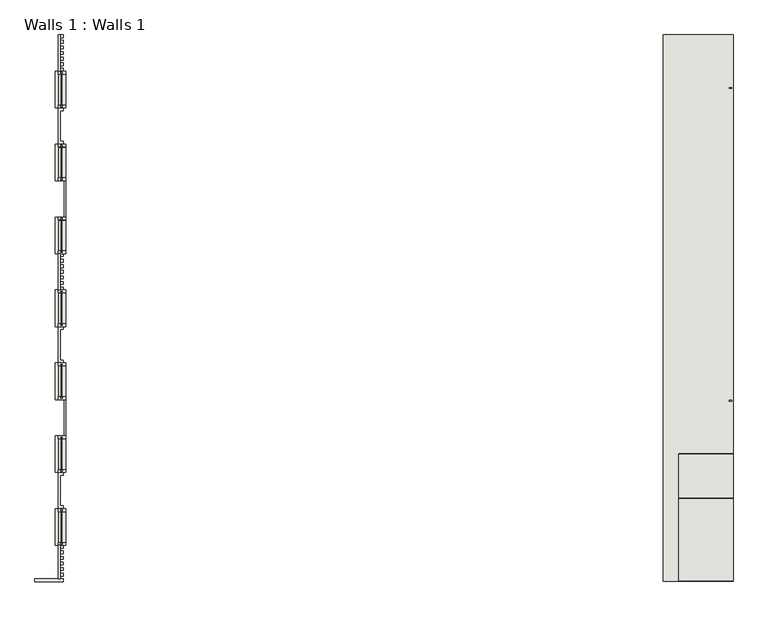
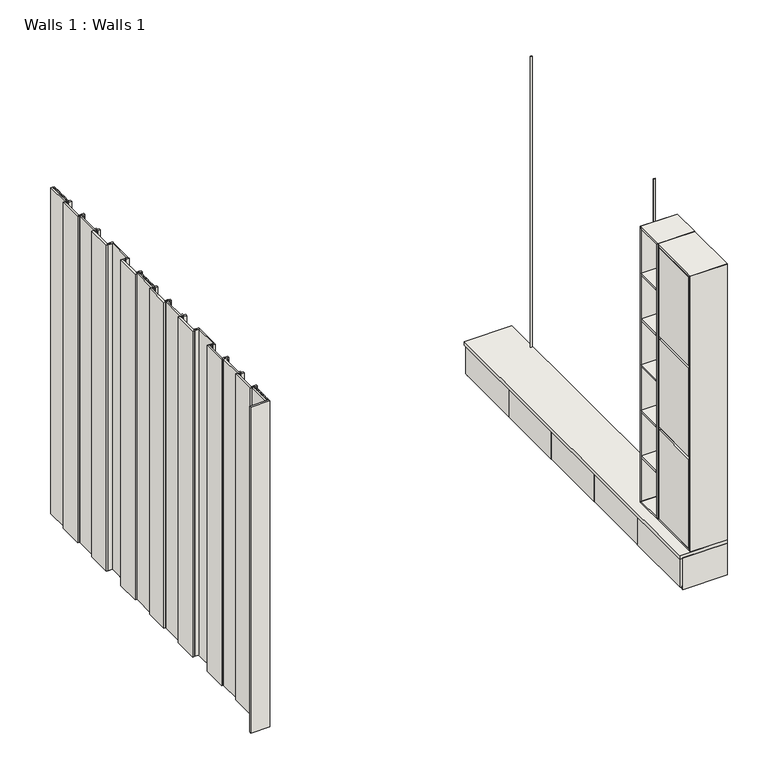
"""IFC4 building model written with IfcOpenShell, lengths in millimetres: wall geometry, Walls 1 : Walls 1."""

from ifc_helpers import new_model, si_unit, frame, origin, origin_with_axes, place, context, project, spatial, polyline, outline, extrude, faceted_brep, source, transform, mapped, element, save


def walls_1_walls_1_cd71ade8(model_context):
    return source(origin(), model_context, "Body", "SolidModel", [
        extrude(outline(polyline([(-2077.2426281, -1757.8956147), (-2077.2426281, -1507.8956147), (-2067.2426281, -1507.8956147), (-2067.2426281, -1757.8956147), (-2077.2426281, -1757.8956147)])), frame((0.0, 0.0, 368.0), z_axis=(0.0, 0.0, 1.0), x_axis=(1.0, 0.0, 0.0)), (0.0, 0.0, 1.0), 2714.0),
        extrude(outline(polyline([(-2397.2426281, -2291.8956147), (-2397.2426281, -1793.8956147), (-2387.2426281, -1793.8956147), (-2387.2426281, -2291.8956147), (-2397.2426281, -2291.8956147)])), frame((0.0, 0.0, 2157.3333333), z_axis=(0.0, 0.0, 1.0), x_axis=(1.0, 0.0, 0.0)), (0.0, 0.0, 1.0), 40.0),
        extrude(outline(polyline([(-2397.2426281, -2291.8956147), (-2397.2426281, -1793.8956147), (-2387.2426281, -1793.8956147), (-2387.2426281, -2291.8956147), (-2397.2426281, -2291.8956147)])), frame((0.0, 0.0, 1252.6666667), z_axis=(0.0, 0.0, 1.0), x_axis=(1.0, 0.0, 0.0)), (0.0, 0.0, 1.0), 40.0),
        extrude(outline(polyline([(-2417.2426281, -2286.8956147), (-2417.2426281, -1798.8956147), (-2397.2426281, -1798.8956147), (-2397.2426281, -2286.8956147), (-2417.2426281, -2286.8956147)])), frame((0.0, 0.0, 2192.3333333), z_axis=(0.0, 0.0, 1.0), x_axis=(1.0, 0.0, 0.0)), (0.0, 0.0, 1.0), 884.6666667),
        extrude(outline(polyline([(-2417.2426281, -2286.8956147), (-2417.2426281, -1798.8956147), (-2397.2426281, -1798.8956147), (-2397.2426281, -2286.8956147), (-2417.2426281, -2286.8956147)])), frame((0.0, 0.0, 1287.6666667), z_axis=(0.0, 0.0, 1.0), x_axis=(1.0, 0.0, 0.0)), (0.0, 0.0, 1.0), 874.6666667),
        extrude(outline(polyline([(-2417.2426281, -2286.8956147), (-2417.2426281, -1798.8956147), (-2397.2426281, -1798.8956147), (-2397.2426281, -2286.8956147), (-2417.2426281, -2286.8956147)])), frame((0.0, 0.0, 373.0), z_axis=(0.0, 0.0, 1.0), x_axis=(1.0, 0.0, 0.0)), (0.0, 0.0, 1.0), 884.6666667),
        extrude(outline(polyline([(-1775.8956147, 350.7071068), (-1775.8956147, 3099.2928932), (-1757.8956147, 3081.2928932), (-1757.8956147, 368.7071068), (-1775.8956147, 350.7071068)])), frame((-2417.2426281, 0.0, 0.0), z_axis=(1.0, 0.0, 0.0), x_axis=(0.0, 1.0, 0.0)), (0.0, 0.0, 1.0), 350.0),
        extrude(outline(polyline([(-1490.6027215, 350.0), (-1775.1885079, 350.0), (-1757.1885079, 368.0), (-1508.6027215, 368.0), (-1490.6027215, 350.0)])), frame((-2417.2426281, 0.0, 0.0), z_axis=(1.0, 0.0, 0.0), x_axis=(0.0, 1.0, 0.0)), (0.0, 0.0, 1.0), 350.0),
        extrude(outline(polyline([(-1489.8956147, 350.7071068), (-1507.8956147, 368.7071068), (-1507.8956147, 3081.2928932), (-1489.8956147, 3099.2928932), (-1489.8956147, 350.7071068)])), frame((-2417.2426281, 0.0, 0.0), z_axis=(1.0, 0.0, 0.0), x_axis=(0.0, 1.0, 0.0)), (0.0, 0.0, 1.0), 350.0),
        extrude(outline(polyline([(-1490.6027215, 3100.0), (-1508.6027215, 3082.0), (-1757.1885079, 3082.0), (-1775.1885079, 3100.0), (-1490.6027215, 3100.0)])), frame((-2417.2426281, 0.0, 0.0), z_axis=(1.0, 0.0, 0.0), x_axis=(0.0, 1.0, 0.0)), (0.0, 0.0, 1.0), 350.0),
        extrude(outline(polyline([(-2417.2426281, -1756.8956147), (-2417.2426281, -1508.8956147), (-2067.2426281, -1508.8956147), (-2067.2426281, -1756.8956147), (-2417.2426281, -1756.8956147)])), frame((0.0, 0.0, 2171.3333333), z_axis=(0.0, 0.0, 1.0), x_axis=(1.0, 0.0, 0.0)), (0.0, 0.0, 1.0), 18.0),
        extrude(outline(polyline([(-2417.2426281, -1756.8956147), (-2417.2426281, -1508.8956147), (-2067.2426281, -1508.8956147), (-2067.2426281, -1756.8956147), (-2417.2426281, -1756.8956147)])), frame((0.0, 0.0, 1716.0), z_axis=(0.0, 0.0, 1.0), x_axis=(1.0, 0.0, 0.0)), (0.0, 0.0, 1.0), 18.0),
        extrude(outline(polyline([(-2417.2426281, -1756.8956147), (-2417.2426281, -1508.8956147), (-2067.2426281, -1508.8956147), (-2067.2426281, -1756.8956147), (-2417.2426281, -1756.8956147)])), frame((0.0, 0.0, 1260.6666667), z_axis=(0.0, 0.0, 1.0), x_axis=(1.0, 0.0, 0.0)), (0.0, 0.0, 1.0), 18.0),
        extrude(outline(polyline([(-2417.2426281, -1756.8956147), (-2417.2426281, -1508.8956147), (-2067.2426281, -1508.8956147), (-2067.2426281, -1756.8956147), (-2417.2426281, -1756.8956147)])), frame((0.0, 0.0, 805.3333333), z_axis=(0.0, 0.0, 1.0), x_axis=(1.0, 0.0, 0.0)), (0.0, 0.0, 1.0), 18.0),
        extrude(outline(polyline([(-2417.2426281, -1756.8956147), (-2417.2426281, -1508.8956147), (-2067.2426281, -1508.8956147), (-2067.2426281, -1756.8956147), (-2417.2426281, -1756.8956147)])), frame((0.0, 0.0, 2626.6666667), z_axis=(0.0, 0.0, 1.0), x_axis=(1.0, 0.0, 0.0)), (0.0, 0.0, 1.0), 18.0),
        extrude(outline(polyline([(-2309.8956147, 350.7071068), (-2309.8956147, 3099.2928932), (-2291.8956147, 3081.2928932), (-2291.8956147, 368.7071068), (-2309.8956147, 350.7071068)])), frame((-2417.2426281, 0.0, 0.0), z_axis=(1.0, 0.0, 0.0), x_axis=(0.0, 1.0, 0.0)), (0.0, 0.0, 1.0), 350.0),
        extrude(outline(polyline([(-1776.6027215, 350.0), (-2309.1885079, 350.0), (-2291.1885079, 368.0), (-1794.6027215, 368.0), (-1776.6027215, 350.0)])), frame((-2417.2426281, 0.0, 0.0), z_axis=(1.0, 0.0, 0.0), x_axis=(0.0, 1.0, 0.0)), (0.0, 0.0, 1.0), 350.0),
        extrude(outline(polyline([(-1775.8956147, 350.7071068), (-1793.8956147, 368.7071068), (-1793.8956147, 3081.2928932), (-1775.8956147, 3099.2928932), (-1775.8956147, 350.7071068)])), frame((-2417.2426281, 0.0, 0.0), z_axis=(1.0, 0.0, 0.0), x_axis=(0.0, 1.0, 0.0)), (0.0, 0.0, 1.0), 350.0),
        extrude(outline(polyline([(-1776.6027215, 3100.0), (-1794.6027215, 3082.0), (-2291.1885079, 3082.0), (-2309.1885079, 3100.0), (-1776.6027215, 3100.0)])), frame((-2417.2426281, 0.0, 0.0), z_axis=(1.0, 0.0, 0.0), x_axis=(0.0, 1.0, 0.0)), (0.0, 0.0, 1.0), 350.0),
        extrude(outline(polyline([(50.2042449, -2487.2426281), (310.0, -2487.2426281), (310.0, -2507.2426281), (27.4097805, -2507.2426281), (27.4097805, -2500.4030183), (50.2042449, -2487.2426281)])), frame((0.0, 502.6043853, 0.0), z_axis=(0.0, 1.0, 0.0), x_axis=(0.0, 0.0, 1.0)), (0.0, 0.0, 1.0), 702.5),
        extrude(outline(polyline([(50.2042449, -2487.2426281), (310.0, -2487.2426281), (310.0, -2507.2426281), (27.4097805, -2507.2426281), (27.4097805, -2500.4030183), (50.2042449, -2487.2426281)])), frame((0.0, -197.3956147, 0.0), z_axis=(0.0, 1.0, 0.0), x_axis=(0.0, 0.0, 1.0)), (0.0, 0.0, 1.0), 695.0),
        extrude(outline(polyline([(50.2042449, -2487.2426281), (310.0, -2487.2426281), (310.0, -2507.2426281), (27.4097805, -2507.2426281), (27.4097805, -2500.4030183), (50.2042449, -2487.2426281)])), frame((0.0, -897.3956147, 0.0), z_axis=(0.0, 1.0, 0.0), x_axis=(0.0, 0.0, 1.0)), (0.0, 0.0, 1.0), 695.0),
        extrude(outline(polyline([(50.2042449, -2487.2426281), (310.0, -2487.2426281), (310.0, -2507.2426281), (27.4097805, -2507.2426281), (27.4097805, -2500.4030183), (50.2042449, -2487.2426281)])), frame((0.0, -1597.3956147, 0.0), z_axis=(0.0, 1.0, 0.0), x_axis=(0.0, 0.0, 1.0)), (0.0, 0.0, 1.0), 695.0),
        extrude(outline(polyline([(50.2042449, -2487.2426281), (310.0, -2487.2426281), (310.0, -2507.2426281), (27.4097805, -2507.2426281), (27.4097805, -2500.4030183), (50.2042449, -2487.2426281)])), frame((0.0, -2304.8956147, 0.0), z_axis=(0.0, 1.0, 0.0), x_axis=(0.0, 0.0, 1.0)), (0.0, 0.0, 1.0), 702.5),
        extrude(outline(polyline([(-2487.2426281, -2288.8956147), (-2487.2426281, 1189.1043853), (-2467.2426281, 1189.1043853), (-2467.2426281, -2288.8956147), (-2487.2426281, -2288.8956147)])), origin_with_axes(), (0.0, 0.0, 1.0), 30.0),
        extrude(outline(polyline([(1210.1043853, 314.2928932), (1210.1043853, 0.0), (1190.1043853, 0.0), (1190.1043853, 294.2928932), (1210.1043853, 314.2928932)])), frame((-2487.2426281, 0.0, 0.0), z_axis=(1.0, 0.0, 0.0), x_axis=(0.0, 1.0, 0.0)), (0.0, 0.0, 1.0), 420.0),
        extrude(outline(polyline([(-2309.1885079, 315.0), (1209.3972785, 315.0), (1189.3972785, 295.0), (-2289.1885079, 295.0), (-2309.1885079, 315.0)])), frame((-2487.2426281, 0.0, 0.0), z_axis=(1.0, 0.0, 0.0), x_axis=(0.0, 1.0, 0.0)), (0.0, 0.0, 1.0), 420.0),
        extrude(outline(polyline([(-2309.8956147, 314.2928932), (-2289.8956147, 294.2928932), (-2289.8956147, 0.0), (-2309.8956147, 0.0), (-2309.8956147, 314.2928932)])), frame((-2487.2426281, 0.0, 0.0), z_axis=(1.0, 0.0, 0.0), x_axis=(0.0, 1.0, 0.0)), (0.0, 0.0, 1.0), 420.0),
        extrude(outline(polyline([(-2487.2426281, 490.1043853), (-2487.2426281, 510.1043853), (-2067.2426281, 510.1043853), (-2067.2426281, 490.1043853), (-2487.2426281, 490.1043853)])), frame((0.0, 0.0, 51.0), z_axis=(0.0, 0.0, 1.0), x_axis=(1.0, 0.0, 0.0)), (0.0, 0.0, 1.0), 243.0),
        extrude(outline(polyline([(-2487.2426281, -209.8956147), (-2487.2426281, -189.8956147), (-2067.2426281, -189.8956147), (-2067.2426281, -209.8956147), (-2487.2426281, -209.8956147)])), frame((0.0, 0.0, 51.0), z_axis=(0.0, 0.0, 1.0), x_axis=(1.0, 0.0, 0.0)), (0.0, 0.0, 1.0), 243.0),
        extrude(outline(polyline([(-2487.2426281, -909.8956147), (-2487.2426281, -889.8956147), (-2067.2426281, -889.8956147), (-2067.2426281, -909.8956147), (-2487.2426281, -909.8956147)])), frame((0.0, 0.0, 51.0), z_axis=(0.0, 0.0, 1.0), x_axis=(1.0, 0.0, 0.0)), (0.0, 0.0, 1.0), 243.0),
        extrude(outline(polyline([(-2487.2426281, -1609.8956147), (-2487.2426281, -1589.8956147), (-2067.2426281, -1589.8956147), (-2067.2426281, -1609.8956147), (-2487.2426281, -1609.8956147)])), frame((0.0, 0.0, 51.0), z_axis=(0.0, 0.0, 1.0), x_axis=(1.0, 0.0, 0.0)), (0.0, 0.0, 1.0), 243.0),
        extrude(outline(polyline([(-2487.2426281, -2288.8956147), (-2487.2426281, 1189.1043853), (-2067.2426281, 1189.1043853), (-2067.2426281, -2288.8956147), (-2487.2426281, -2288.8956147)])), frame((0.0, 0.0, 30.0), z_axis=(0.0, 0.0, 1.0), x_axis=(1.0, 0.0, 0.0)), (0.0, 0.0, 1.0), 20.0),
        extrude(outline(polyline([(-2517.2426281, -2309.8956147), (-2517.2426281, 1210.1043853), (-2067.2426281, 1210.1043853), (-2067.2426281, -2309.8956147), (-2517.2426281, -2309.8956147)])), frame((0.0, 0.0, 315.0), z_axis=(0.0, 0.0, 1.0), x_axis=(1.0, 0.0, 0.0)), (0.0, 0.0, 1.0), 35.0),
        extrude(outline(polyline([(-2077.2426281, 870.1043853), (-2077.2426281, 865.1043853), (-2092.2426281, 865.1043853), (-2092.2426281, 870.1043853), (-2077.2426281, 870.1043853)])), frame((0.0, 0.0, 350.0), z_axis=(0.0, 0.0, 1.0), x_axis=(1.0, 0.0, 0.0)), (0.0, 0.0, 1.0), 2900.0),
        extrude(outline(polyline([(-2092.2426281, -1149.8956147), (-2092.2426281, -1144.8956147), (-2077.2426281, -1144.8956147), (-2077.2426281, -1149.8956147), (-2092.2426281, -1149.8956147)])), frame((0.0, 0.0, 350.0), z_axis=(0.0, 0.0, 1.0), x_axis=(1.0, 0.0, 0.0)), (0.0, 0.0, 1.0), 2900.0),
        extrude(outline(polyline([(-6417.2426281, 1210.1043853), (-6403.2426281, 1210.1043853), (-6403.2426281, 976.1043853), (-6417.2426281, 976.1043853), (-6417.2426281, 1210.1043853)])), origin_with_axes(), (0.0, 0.0, 1.0), 3250.0),
        extrude(outline(polyline([(-6417.2426281, -199.8956147), (-6403.2426281, -199.8956147), (-6403.2426281, -433.8956147), (-6417.2426281, -433.8956147), (-6417.2426281, -199.8956147)])), origin_with_axes(), (0.0, 0.0, 1.0), 3250.0),
        extrude(outline(polyline([(-6417.2426281, -2079.8956147), (-6403.2426281, -2079.8956147), (-6403.2426281, -2295.8956147), (-6417.2426281, -2295.8956147), (-6417.2426281, -2079.8956147)])), origin_with_axes(), (0.0, 0.0, 1.0), 3250.0),
        extrude(outline(polyline([(-6392.2426281, 968.1043853), (-6392.2426281, 963.1043853), (-6402.2426281, 963.1043853), (-6402.2426281, 968.1043853), (-6392.2426281, 968.1043853)])), origin_with_axes(), (0.0, 0.0, 1.0), 3250.0),
        extrude(outline(polyline([(-6392.2426281, 753.1043853), (-6392.2426281, 748.1043853), (-6402.2426281, 748.1043853), (-6402.2426281, 753.1043853), (-6392.2426281, 753.1043853)])), origin_with_axes(), (0.0, 0.0, 1.0), 3250.0),
        extrude(outline(polyline([(-6392.2426281, 498.1043853), (-6392.2426281, 493.1043853), (-6402.2426281, 493.1043853), (-6402.2426281, 498.1043853), (-6392.2426281, 498.1043853)])), origin_with_axes(), (0.0, 0.0, 1.0), 3250.0),
        extrude(outline(polyline([(-6392.2426281, 283.1043853), (-6392.2426281, 278.1043853), (-6402.2426281, 278.1043853), (-6402.2426281, 283.1043853), (-6392.2426281, 283.1043853)])), origin_with_axes(), (0.0, 0.0, 1.0), 3250.0),
        extrude(outline(polyline([(-6392.2426281, 28.1043853), (-6392.2426281, 23.1043853), (-6402.2426281, 23.1043853), (-6402.2426281, 28.1043853), (-6392.2426281, 28.1043853)])), origin_with_axes(), (0.0, 0.0, 1.0), 3250.0),
        extrude(outline(polyline([(-6392.2426281, -186.8956147), (-6392.2426281, -191.8956147), (-6402.2426281, -191.8956147), (-6402.2426281, -186.8956147), (-6392.2426281, -186.8956147)])), origin_with_axes(), (0.0, 0.0, 1.0), 3250.0),
        extrude(outline(polyline([(-6392.2426281, -441.8956147), (-6392.2426281, -446.8956147), (-6402.2426281, -446.8956147), (-6402.2426281, -441.8956147), (-6392.2426281, -441.8956147)])), origin_with_axes(), (0.0, 0.0, 1.0), 3250.0),
        extrude(outline(polyline([(-6392.2426281, -656.8956147), (-6392.2426281, -661.8956147), (-6402.2426281, -661.8956147), (-6402.2426281, -656.8956147), (-6392.2426281, -656.8956147)])), origin_with_axes(), (0.0, 0.0, 1.0), 3250.0),
        extrude(outline(polyline([(-6392.2426281, -911.8956147), (-6392.2426281, -916.8956147), (-6402.2426281, -916.8956147), (-6402.2426281, -911.8956147), (-6392.2426281, -911.8956147)])), origin_with_axes(), (0.0, 0.0, 1.0), 3250.0),
        extrude(outline(polyline([(-6392.2426281, -1126.8956147), (-6392.2426281, -1131.8956147), (-6402.2426281, -1131.8956147), (-6402.2426281, -1126.8956147), (-6392.2426281, -1126.8956147)])), origin_with_axes(), (0.0, 0.0, 1.0), 3250.0),
        extrude(outline(polyline([(-6392.2426281, -1381.8956147), (-6392.2426281, -1386.8956147), (-6402.2426281, -1386.8956147), (-6402.2426281, -1381.8956147), (-6392.2426281, -1381.8956147)])), origin_with_axes(), (0.0, 0.0, 1.0), 3250.0),
        extrude(outline(polyline([(-6392.2426281, -1596.8956147), (-6392.2426281, -1601.8956147), (-6402.2426281, -1601.8956147), (-6402.2426281, -1596.8956147), (-6392.2426281, -1596.8956147)])), origin_with_axes(), (0.0, 0.0, 1.0), 3250.0),
        extrude(outline(polyline([(-6392.2426281, -1851.8956147), (-6392.2426281, -1856.8956147), (-6402.2426281, -1856.8956147), (-6402.2426281, -1851.8956147), (-6392.2426281, -1851.8956147)])), origin_with_axes(), (0.0, 0.0, 1.0), 3250.0),
        extrude(outline(polyline([(-6392.2426281, -2066.8956147), (-6392.2426281, -2071.8956147), (-6402.2426281, -2071.8956147), (-6402.2426281, -2066.8956147), (-6392.2426281, -2066.8956147)])), origin_with_axes(), (0.0, 0.0, 1.0), 3250.0),
        faceted_brep([(-6367.2426281, 958.1043853, 3250.0), (-6367.2426281, 958.1043853, 18.7071068), (-6367.2426281, 976.1043853, 0.7071068), (-6367.2426281, 976.1043853, 3250.0), (-6417.2426281, 958.1043853, 3250.0), (-6417.2426281, 976.1043853, 3250.0), (-6417.2426281, 976.1043853, 0.7071068), (-6417.2426281, 958.1043853, 18.7071068), (-6392.2426281, 958.1043853, 3250.0), (-6392.2426281, 958.1043853, 18.7071068), (-6402.2426281, 958.1043853, 18.7071068), (-6402.2426281, 958.1043853, 3250.0), (-6392.2426281, 968.1043853, 8.7071068), (-6402.2426281, 968.1043853, 8.7071068), (-6402.2426281, 968.1043853, 3250.0), (-6392.2426281, 968.1043853, 3250.0)], [[[0, 1, 2, 3]], [[4, 5, 6, 7]], [[1, 0, 8, 9]], [[4, 7, 10, 11]], [[2, 1, 9, 12, 13, 10, 7, 6]], [[3, 2, 6, 5]], [[0, 3, 5, 4, 11, 14, 15, 8]], [[13, 14, 11, 10]], [[15, 12, 9, 8]], [[14, 13, 12, 15]]]),
        faceted_brep([(-6367.2426281, 740.8114921, 0.0), (-6367.2426281, 975.3972785, 0.0), (-6367.2426281, 957.3972785, 18.0), (-6367.2426281, 758.8114921, 18.0), (-6417.2426281, 740.8114921, 0.0), (-6417.2426281, 758.8114921, 18.0), (-6417.2426281, 957.3972785, 18.0), (-6417.2426281, 975.3972785, 0.0), (-6402.2426281, 968.1043853, 0.0), (-6402.2426281, 748.1043853, 0.0), (-6392.2426281, 748.1043853, 0.0), (-6392.2426281, 968.1043853, 0.0), (-6402.2426281, 957.3972785, 18.0), (-6402.2426281, 968.1043853, 7.2928932), (-6392.2426281, 968.1043853, 7.2928932), (-6392.2426281, 957.3972785, 18.0), (-6392.2426281, 758.8114921, 18.0), (-6402.2426281, 758.8114921, 18.0), (-6392.2426281, 748.1043853, 7.2928932), (-6402.2426281, 748.1043853, 7.2928932)], [[[0, 1, 2, 3]], [[4, 5, 6, 7]], [[1, 0, 4, 7], [8, 9, 10, 11]], [[2, 1, 7, 6, 12, 13, 14, 15]], [[3, 2, 15, 16]], [[6, 5, 17, 12]], [[0, 3, 16, 18, 19, 17, 5, 4]], [[8, 13, 12, 17, 19, 9]], [[9, 19, 18, 10]], [[10, 18, 16, 15, 14, 11]], [[13, 8, 11, 14]]]),
        faceted_brep([(-6367.2426281, 758.1043853, 3250.0), (-6367.2426281, 740.1043853, 3250.0), (-6367.2426281, 740.1043853, 0.7071068), (-6367.2426281, 758.1043853, 18.7071068), (-6417.2426281, 758.1043853, 3250.0), (-6417.2426281, 758.1043853, 18.7071068), (-6417.2426281, 740.1043853, 0.7071068), (-6417.2426281, 740.1043853, 3250.0), (-6392.2426281, 758.1043853, 3250.0), (-6392.2426281, 748.1043853, 3250.0), (-6402.2426281, 748.1043853, 3250.0), (-6402.2426281, 758.1043853, 3250.0), (-6402.2426281, 758.1043853, 18.7071068), (-6402.2426281, 748.1043853, 8.7071068), (-6392.2426281, 748.1043853, 8.7071068), (-6392.2426281, 758.1043853, 18.7071068)], [[[0, 1, 2, 3]], [[4, 5, 6, 7]], [[1, 0, 8, 9, 10, 11, 4, 7]], [[2, 1, 7, 6]], [[3, 2, 6, 5, 12, 13, 14, 15]], [[0, 3, 15, 8]], [[5, 4, 11, 12]], [[10, 13, 12, 11]], [[13, 10, 9, 14]], [[14, 9, 8, 15]]]),
        faceted_brep([(-6367.2426281, 488.1043853, 3250.0), (-6367.2426281, 488.1043853, 18.7071068), (-6367.2426281, 506.1043853, 0.7071068), (-6367.2426281, 506.1043853, 3250.0), (-6417.2426281, 488.1043853, 3250.0), (-6417.2426281, 506.1043853, 3250.0), (-6417.2426281, 506.1043853, 0.7071068), (-6417.2426281, 488.1043853, 18.7071068), (-6392.2426281, 488.1043853, 3250.0), (-6392.2426281, 488.1043853, 18.7071068), (-6402.2426281, 488.1043853, 18.7071068), (-6402.2426281, 488.1043853, 3250.0), (-6392.2426281, 498.1043853, 8.7071068), (-6402.2426281, 498.1043853, 8.7071068), (-6402.2426281, 498.1043853, 3250.0), (-6392.2426281, 498.1043853, 3250.0)], [[[0, 1, 2, 3]], [[4, 5, 6, 7]], [[1, 0, 8, 9]], [[4, 7, 10, 11]], [[2, 1, 9, 12, 13, 10, 7, 6]], [[3, 2, 6, 5]], [[0, 3, 5, 4, 11, 14, 15, 8]], [[13, 14, 11, 10]], [[15, 12, 9, 8]], [[14, 13, 12, 15]]]),
        faceted_brep([(-6367.2426281, 270.8114921, 0.0), (-6367.2426281, 505.3972785, 0.0), (-6367.2426281, 487.3972785, 18.0), (-6367.2426281, 288.8114921, 18.0), (-6417.2426281, 270.8114921, 0.0), (-6417.2426281, 288.8114921, 18.0), (-6417.2426281, 487.3972785, 18.0), (-6417.2426281, 505.3972785, 0.0), (-6402.2426281, 498.1043853, 0.0), (-6402.2426281, 278.1043853, 0.0), (-6392.2426281, 278.1043853, 0.0), (-6392.2426281, 498.1043853, 0.0), (-6402.2426281, 487.3972785, 18.0), (-6402.2426281, 498.1043853, 7.2928932), (-6392.2426281, 498.1043853, 7.2928932), (-6392.2426281, 487.3972785, 18.0), (-6392.2426281, 288.8114921, 18.0), (-6402.2426281, 288.8114921, 18.0), (-6392.2426281, 278.1043853, 7.2928932), (-6402.2426281, 278.1043853, 7.2928932)], [[[0, 1, 2, 3]], [[4, 5, 6, 7]], [[1, 0, 4, 7], [8, 9, 10, 11]], [[2, 1, 7, 6, 12, 13, 14, 15]], [[3, 2, 15, 16]], [[6, 5, 17, 12]], [[0, 3, 16, 18, 19, 17, 5, 4]], [[8, 13, 12, 17, 19, 9]], [[9, 19, 18, 10]], [[10, 18, 16, 15, 14, 11]], [[13, 8, 11, 14]]]),
        faceted_brep([(-6367.2426281, 288.1043853, 3250.0), (-6367.2426281, 270.1043853, 3250.0), (-6367.2426281, 270.1043853, 0.7071068), (-6367.2426281, 288.1043853, 18.7071068), (-6417.2426281, 288.1043853, 3250.0), (-6417.2426281, 288.1043853, 18.7071068), (-6417.2426281, 270.1043853, 0.7071068), (-6417.2426281, 270.1043853, 3250.0), (-6392.2426281, 288.1043853, 3250.0), (-6392.2426281, 278.1043853, 3250.0), (-6402.2426281, 278.1043853, 3250.0), (-6402.2426281, 288.1043853, 3250.0), (-6402.2426281, 288.1043853, 18.7071068), (-6402.2426281, 278.1043853, 8.7071068), (-6392.2426281, 278.1043853, 8.7071068), (-6392.2426281, 288.1043853, 18.7071068)], [[[0, 1, 2, 3]], [[4, 5, 6, 7]], [[1, 0, 8, 9, 10, 11, 4, 7]], [[2, 1, 7, 6]], [[3, 2, 6, 5, 12, 13, 14, 15]], [[0, 3, 15, 8]], [[5, 4, 11, 12]], [[10, 13, 12, 11]], [[13, 10, 9, 14]], [[14, 9, 8, 15]]]),
        faceted_brep([(-6367.2426281, 18.1043853, 3250.0), (-6367.2426281, 18.1043853, 18.7071068), (-6367.2426281, 36.1043853, 0.7071068), (-6367.2426281, 36.1043853, 3250.0), (-6417.2426281, 18.1043853, 3250.0), (-6417.2426281, 36.1043853, 3250.0), (-6417.2426281, 36.1043853, 0.7071068), (-6417.2426281, 18.1043853, 18.7071068), (-6392.2426281, 18.1043853, 3250.0), (-6392.2426281, 18.1043853, 18.7071068), (-6402.2426281, 18.1043853, 18.7071068), (-6402.2426281, 18.1043853, 3250.0), (-6392.2426281, 28.1043853, 8.7071068), (-6402.2426281, 28.1043853, 8.7071068), (-6402.2426281, 28.1043853, 3250.0), (-6392.2426281, 28.1043853, 3250.0)], [[[0, 1, 2, 3]], [[4, 5, 6, 7]], [[1, 0, 8, 9]], [[4, 7, 10, 11]], [[2, 1, 9, 12, 13, 10, 7, 6]], [[3, 2, 6, 5]], [[0, 3, 5, 4, 11, 14, 15, 8]], [[13, 14, 11, 10]], [[15, 12, 9, 8]], [[14, 13, 12, 15]]]),
        faceted_brep([(-6367.2426281, -199.1885079, 0.0), (-6367.2426281, 35.3972785, 0.0), (-6367.2426281, 17.3972785, 18.0), (-6367.2426281, -181.1885079, 18.0), (-6417.2426281, -199.1885079, 0.0), (-6417.2426281, -181.1885079, 18.0), (-6417.2426281, 17.3972785, 18.0), (-6417.2426281, 35.3972785, 0.0), (-6402.2426281, 28.1043853, 0.0), (-6402.2426281, -191.8956147, 0.0), (-6392.2426281, -191.8956147, 0.0), (-6392.2426281, 28.1043853, 0.0), (-6402.2426281, 17.3972785, 18.0), (-6402.2426281, 28.1043853, 7.2928932), (-6392.2426281, 28.1043853, 7.2928932), (-6392.2426281, 17.3972785, 18.0), (-6392.2426281, -181.1885079, 18.0), (-6402.2426281, -181.1885079, 18.0), (-6392.2426281, -191.8956147, 7.2928932), (-6402.2426281, -191.8956147, 7.2928932)], [[[0, 1, 2, 3]], [[4, 5, 6, 7]], [[1, 0, 4, 7], [8, 9, 10, 11]], [[2, 1, 7, 6, 12, 13, 14, 15]], [[3, 2, 15, 16]], [[6, 5, 17, 12]], [[0, 3, 16, 18, 19, 17, 5, 4]], [[8, 13, 12, 17, 19, 9]], [[9, 19, 18, 10]], [[10, 18, 16, 15, 14, 11]], [[13, 8, 11, 14]]]),
        faceted_brep([(-6367.2426281, -181.8956147, 3250.0), (-6367.2426281, -199.8956147, 3250.0), (-6367.2426281, -199.8956147, 0.7071068), (-6367.2426281, -181.8956147, 18.7071068), (-6417.2426281, -181.8956147, 3250.0), (-6417.2426281, -181.8956147, 18.7071068), (-6417.2426281, -199.8956147, 0.7071068), (-6417.2426281, -199.8956147, 3250.0), (-6392.2426281, -181.8956147, 3250.0), (-6392.2426281, -191.8956147, 3250.0), (-6402.2426281, -191.8956147, 3250.0), (-6402.2426281, -181.8956147, 3250.0), (-6402.2426281, -181.8956147, 18.7071068), (-6402.2426281, -191.8956147, 8.7071068), (-6392.2426281, -191.8956147, 8.7071068), (-6392.2426281, -181.8956147, 18.7071068)], [[[0, 1, 2, 3]], [[4, 5, 6, 7]], [[1, 0, 8, 9, 10, 11, 4, 7]], [[2, 1, 7, 6]], [[3, 2, 6, 5, 12, 13, 14, 15]], [[0, 3, 15, 8]], [[5, 4, 11, 12]], [[10, 13, 12, 11]], [[13, 10, 9, 14]], [[14, 9, 8, 15]]]),
        faceted_brep([(-6367.2426281, -451.8956147, 3250.0), (-6367.2426281, -451.8956147, 18.7071068), (-6367.2426281, -433.8956147, 0.7071068), (-6367.2426281, -433.8956147, 3250.0), (-6417.2426281, -451.8956147, 3250.0), (-6417.2426281, -433.8956147, 3250.0), (-6417.2426281, -433.8956147, 0.7071068), (-6417.2426281, -451.8956147, 18.7071068), (-6392.2426281, -451.8956147, 3250.0), (-6392.2426281, -451.8956147, 18.7071068), (-6402.2426281, -451.8956147, 18.7071068), (-6402.2426281, -451.8956147, 3250.0), (-6392.2426281, -441.8956147, 8.7071068), (-6402.2426281, -441.8956147, 8.7071068), (-6402.2426281, -441.8956147, 3250.0), (-6392.2426281, -441.8956147, 3250.0)], [[[0, 1, 2, 3]], [[4, 5, 6, 7]], [[1, 0, 8, 9]], [[4, 7, 10, 11]], [[2, 1, 9, 12, 13, 10, 7, 6]], [[3, 2, 6, 5]], [[0, 3, 5, 4, 11, 14, 15, 8]], [[13, 14, 11, 10]], [[15, 12, 9, 8]], [[14, 13, 12, 15]]]),
        faceted_brep([(-6367.2426281, -669.1885079, 0.0), (-6367.2426281, -434.6027215, 0.0), (-6367.2426281, -452.6027215, 18.0), (-6367.2426281, -651.1885079, 18.0), (-6417.2426281, -669.1885079, 0.0), (-6417.2426281, -651.1885079, 18.0), (-6417.2426281, -452.6027215, 18.0), (-6417.2426281, -434.6027215, 0.0), (-6402.2426281, -441.8956147, 0.0), (-6402.2426281, -661.8956147, 0.0), (-6392.2426281, -661.8956147, 0.0), (-6392.2426281, -441.8956147, 0.0), (-6402.2426281, -452.6027215, 18.0), (-6402.2426281, -441.8956147, 7.2928932), (-6392.2426281, -441.8956147, 7.2928932), (-6392.2426281, -452.6027215, 18.0), (-6392.2426281, -651.1885079, 18.0), (-6402.2426281, -651.1885079, 18.0), (-6392.2426281, -661.8956147, 7.2928932), (-6402.2426281, -661.8956147, 7.2928932)], [[[0, 1, 2, 3]], [[4, 5, 6, 7]], [[1, 0, 4, 7], [8, 9, 10, 11]], [[2, 1, 7, 6, 12, 13, 14, 15]], [[3, 2, 15, 16]], [[6, 5, 17, 12]], [[0, 3, 16, 18, 19, 17, 5, 4]], [[8, 13, 12, 17, 19, 9]], [[9, 19, 18, 10]], [[10, 18, 16, 15, 14, 11]], [[13, 8, 11, 14]]]),
        faceted_brep([(-6367.2426281, -651.8956147, 3250.0), (-6367.2426281, -669.8956147, 3250.0), (-6367.2426281, -669.8956147, 0.7071068), (-6367.2426281, -651.8956147, 18.7071068), (-6417.2426281, -651.8956147, 3250.0), (-6417.2426281, -651.8956147, 18.7071068), (-6417.2426281, -669.8956147, 0.7071068), (-6417.2426281, -669.8956147, 3250.0), (-6392.2426281, -651.8956147, 3250.0), (-6392.2426281, -661.8956147, 3250.0), (-6402.2426281, -661.8956147, 3250.0), (-6402.2426281, -651.8956147, 3250.0), (-6402.2426281, -651.8956147, 18.7071068), (-6402.2426281, -661.8956147, 8.7071068), (-6392.2426281, -661.8956147, 8.7071068), (-6392.2426281, -651.8956147, 18.7071068)], [[[0, 1, 2, 3]], [[4, 5, 6, 7]], [[1, 0, 8, 9, 10, 11, 4, 7]], [[2, 1, 7, 6]], [[3, 2, 6, 5, 12, 13, 14, 15]], [[0, 3, 15, 8]], [[5, 4, 11, 12]], [[10, 13, 12, 11]], [[13, 10, 9, 14]], [[14, 9, 8, 15]]]),
        faceted_brep([(-6367.2426281, -921.8956147, 3250.0), (-6367.2426281, -921.8956147, 18.7071068), (-6367.2426281, -903.8956147, 0.7071068), (-6367.2426281, -903.8956147, 3250.0), (-6417.2426281, -921.8956147, 3250.0), (-6417.2426281, -903.8956147, 3250.0), (-6417.2426281, -903.8956147, 0.7071068), (-6417.2426281, -921.8956147, 18.7071068), (-6392.2426281, -921.8956147, 3250.0), (-6392.2426281, -921.8956147, 18.7071068), (-6402.2426281, -921.8956147, 18.7071068), (-6402.2426281, -921.8956147, 3250.0), (-6392.2426281, -911.8956147, 8.7071068), (-6402.2426281, -911.8956147, 8.7071068), (-6402.2426281, -911.8956147, 3250.0), (-6392.2426281, -911.8956147, 3250.0)], [[[0, 1, 2, 3]], [[4, 5, 6, 7]], [[1, 0, 8, 9]], [[4, 7, 10, 11]], [[2, 1, 9, 12, 13, 10, 7, 6]], [[3, 2, 6, 5]], [[0, 3, 5, 4, 11, 14, 15, 8]], [[13, 14, 11, 10]], [[15, 12, 9, 8]], [[14, 13, 12, 15]]]),
        faceted_brep([(-6367.2426281, -1139.1885079, 0.0), (-6367.2426281, -904.6027215, 0.0), (-6367.2426281, -922.6027215, 18.0), (-6367.2426281, -1121.1885079, 18.0), (-6417.2426281, -1139.1885079, 0.0), (-6417.2426281, -1121.1885079, 18.0), (-6417.2426281, -922.6027215, 18.0), (-6417.2426281, -904.6027215, 0.0), (-6402.2426281, -911.8956147, 0.0), (-6402.2426281, -1131.8956147, 0.0), (-6392.2426281, -1131.8956147, 0.0), (-6392.2426281, -911.8956147, 0.0), (-6402.2426281, -922.6027215, 18.0), (-6402.2426281, -911.8956147, 7.2928932), (-6392.2426281, -911.8956147, 7.2928932), (-6392.2426281, -922.6027215, 18.0), (-6392.2426281, -1121.1885079, 18.0), (-6402.2426281, -1121.1885079, 18.0), (-6392.2426281, -1131.8956147, 7.2928932), (-6402.2426281, -1131.8956147, 7.2928932)], [[[0, 1, 2, 3]], [[4, 5, 6, 7]], [[1, 0, 4, 7], [8, 9, 10, 11]], [[2, 1, 7, 6, 12, 13, 14, 15]], [[3, 2, 15, 16]], [[6, 5, 17, 12]], [[0, 3, 16, 18, 19, 17, 5, 4]], [[8, 13, 12, 17, 19, 9]], [[9, 19, 18, 10]], [[10, 18, 16, 15, 14, 11]], [[13, 8, 11, 14]]]),
        faceted_brep([(-6367.2426281, -1121.8956147, 3250.0), (-6367.2426281, -1139.8956147, 3250.0), (-6367.2426281, -1139.8956147, 0.7071068), (-6367.2426281, -1121.8956147, 18.7071068), (-6417.2426281, -1121.8956147, 3250.0), (-6417.2426281, -1121.8956147, 18.7071068), (-6417.2426281, -1139.8956147, 0.7071068), (-6417.2426281, -1139.8956147, 3250.0), (-6392.2426281, -1121.8956147, 3250.0), (-6392.2426281, -1131.8956147, 3250.0), (-6402.2426281, -1131.8956147, 3250.0), (-6402.2426281, -1121.8956147, 3250.0), (-6402.2426281, -1121.8956147, 18.7071068), (-6402.2426281, -1131.8956147, 8.7071068), (-6392.2426281, -1131.8956147, 8.7071068), (-6392.2426281, -1121.8956147, 18.7071068)], [[[0, 1, 2, 3]], [[4, 5, 6, 7]], [[1, 0, 8, 9, 10, 11, 4, 7]], [[2, 1, 7, 6]], [[3, 2, 6, 5, 12, 13, 14, 15]], [[0, 3, 15, 8]], [[5, 4, 11, 12]], [[10, 13, 12, 11]], [[13, 10, 9, 14]], [[14, 9, 8, 15]]]),
        faceted_brep([(-6367.2426281, -1391.8956147, 3250.0), (-6367.2426281, -1391.8956147, 18.7071068), (-6367.2426281, -1373.8956147, 0.7071068), (-6367.2426281, -1373.8956147, 3250.0), (-6417.2426281, -1391.8956147, 3250.0), (-6417.2426281, -1373.8956147, 3250.0), (-6417.2426281, -1373.8956147, 0.7071068), (-6417.2426281, -1391.8956147, 18.7071068), (-6392.2426281, -1391.8956147, 3250.0), (-6392.2426281, -1391.8956147, 18.7071068), (-6402.2426281, -1391.8956147, 18.7071068), (-6402.2426281, -1391.8956147, 3250.0), (-6392.2426281, -1381.8956147, 8.7071068), (-6402.2426281, -1381.8956147, 8.7071068), (-6402.2426281, -1381.8956147, 3250.0), (-6392.2426281, -1381.8956147, 3250.0)], [[[0, 1, 2, 3]], [[4, 5, 6, 7]], [[1, 0, 8, 9]], [[4, 7, 10, 11]], [[2, 1, 9, 12, 13, 10, 7, 6]], [[3, 2, 6, 5]], [[0, 3, 5, 4, 11, 14, 15, 8]], [[13, 14, 11, 10]], [[15, 12, 9, 8]], [[14, 13, 12, 15]]]),
        faceted_brep([(-6367.2426281, -1609.1885079, 0.0), (-6367.2426281, -1374.6027215, 0.0), (-6367.2426281, -1392.6027215, 18.0), (-6367.2426281, -1591.1885079, 18.0), (-6417.2426281, -1609.1885079, 0.0), (-6417.2426281, -1591.1885079, 18.0), (-6417.2426281, -1392.6027215, 18.0), (-6417.2426281, -1374.6027215, 0.0), (-6402.2426281, -1381.8956147, 0.0), (-6402.2426281, -1601.8956147, 0.0), (-6392.2426281, -1601.8956147, 0.0), (-6392.2426281, -1381.8956147, 0.0), (-6402.2426281, -1392.6027215, 18.0), (-6402.2426281, -1381.8956147, 7.2928932), (-6392.2426281, -1381.8956147, 7.2928932), (-6392.2426281, -1392.6027215, 18.0), (-6392.2426281, -1591.1885079, 18.0), (-6402.2426281, -1591.1885079, 18.0), (-6392.2426281, -1601.8956147, 7.2928932), (-6402.2426281, -1601.8956147, 7.2928932)], [[[0, 1, 2, 3]], [[4, 5, 6, 7]], [[1, 0, 4, 7], [8, 9, 10, 11]], [[2, 1, 7, 6, 12, 13, 14, 15]], [[3, 2, 15, 16]], [[6, 5, 17, 12]], [[0, 3, 16, 18, 19, 17, 5, 4]], [[8, 13, 12, 17, 19, 9]], [[9, 19, 18, 10]], [[10, 18, 16, 15, 14, 11]], [[13, 8, 11, 14]]]),
        faceted_brep([(-6367.2426281, -1591.8956147, 3250.0), (-6367.2426281, -1609.8956147, 3250.0), (-6367.2426281, -1609.8956147, 0.7071068), (-6367.2426281, -1591.8956147, 18.7071068), (-6417.2426281, -1591.8956147, 3250.0), (-6417.2426281, -1591.8956147, 18.7071068), (-6417.2426281, -1609.8956147, 0.7071068), (-6417.2426281, -1609.8956147, 3250.0), (-6392.2426281, -1591.8956147, 3250.0), (-6392.2426281, -1601.8956147, 3250.0), (-6402.2426281, -1601.8956147, 3250.0), (-6402.2426281, -1591.8956147, 3250.0), (-6402.2426281, -1591.8956147, 18.7071068), (-6402.2426281, -1601.8956147, 8.7071068), (-6392.2426281, -1601.8956147, 8.7071068), (-6392.2426281, -1591.8956147, 18.7071068)], [[[0, 1, 2, 3]], [[4, 5, 6, 7]], [[1, 0, 8, 9, 10, 11, 4, 7]], [[2, 1, 7, 6]], [[3, 2, 6, 5, 12, 13, 14, 15]], [[0, 3, 15, 8]], [[5, 4, 11, 12]], [[10, 13, 12, 11]], [[13, 10, 9, 14]], [[14, 9, 8, 15]]]),
        faceted_brep([(-6367.2426281, -1861.8956147, 3250.0), (-6367.2426281, -1861.8956147, 18.7071068), (-6367.2426281, -1843.8956147, 0.7071068), (-6367.2426281, -1843.8956147, 3250.0), (-6417.2426281, -1861.8956147, 3250.0), (-6417.2426281, -1843.8956147, 3250.0), (-6417.2426281, -1843.8956147, 0.7071068), (-6417.2426281, -1861.8956147, 18.7071068), (-6392.2426281, -1861.8956147, 3250.0), (-6392.2426281, -1861.8956147, 18.7071068), (-6402.2426281, -1861.8956147, 18.7071068), (-6402.2426281, -1861.8956147, 3250.0), (-6392.2426281, -1851.8956147, 8.7071068), (-6402.2426281, -1851.8956147, 8.7071068), (-6402.2426281, -1851.8956147, 3250.0), (-6392.2426281, -1851.8956147, 3250.0)], [[[0, 1, 2, 3]], [[4, 5, 6, 7]], [[1, 0, 8, 9]], [[4, 7, 10, 11]], [[2, 1, 9, 12, 13, 10, 7, 6]], [[3, 2, 6, 5]], [[0, 3, 5, 4, 11, 14, 15, 8]], [[13, 14, 11, 10]], [[15, 12, 9, 8]], [[14, 13, 12, 15]]]),
        faceted_brep([(-6367.2426281, -2079.1885079, 0.0), (-6367.2426281, -1844.6027215, 0.0), (-6367.2426281, -1862.6027215, 18.0), (-6367.2426281, -2061.1885079, 18.0), (-6417.2426281, -2079.1885079, 0.0), (-6417.2426281, -2061.1885079, 18.0), (-6417.2426281, -1862.6027215, 18.0), (-6417.2426281, -1844.6027215, 0.0), (-6402.2426281, -1851.8956147, 0.0), (-6402.2426281, -2071.8956147, 0.0), (-6392.2426281, -2071.8956147, 0.0), (-6392.2426281, -1851.8956147, 0.0), (-6402.2426281, -1862.6027215, 18.0), (-6402.2426281, -1851.8956147, 7.2928932), (-6392.2426281, -1851.8956147, 7.2928932), (-6392.2426281, -1862.6027215, 18.0), (-6392.2426281, -2061.1885079, 18.0), (-6402.2426281, -2061.1885079, 18.0), (-6392.2426281, -2071.8956147, 7.2928932), (-6402.2426281, -2071.8956147, 7.2928932)], [[[0, 1, 2, 3]], [[4, 5, 6, 7]], [[1, 0, 4, 7], [8, 9, 10, 11]], [[2, 1, 7, 6, 12, 13, 14, 15]], [[3, 2, 15, 16]], [[6, 5, 17, 12]], [[0, 3, 16, 18, 19, 17, 5, 4]], [[8, 13, 12, 17, 19, 9]], [[9, 19, 18, 10]], [[10, 18, 16, 15, 14, 11]], [[13, 8, 11, 14]]]),
        faceted_brep([(-6367.2426281, -2061.8956147, 3250.0), (-6367.2426281, -2079.8956147, 3250.0), (-6367.2426281, -2079.8956147, 0.7071068), (-6367.2426281, -2061.8956147, 18.7071068), (-6417.2426281, -2061.8956147, 3250.0), (-6417.2426281, -2061.8956147, 18.7071068), (-6417.2426281, -2079.8956147, 0.7071068), (-6417.2426281, -2079.8956147, 3250.0), (-6392.2426281, -2061.8956147, 3250.0), (-6392.2426281, -2071.8956147, 3250.0), (-6402.2426281, -2071.8956147, 3250.0), (-6402.2426281, -2061.8956147, 3250.0), (-6402.2426281, -2061.8956147, 18.7071068), (-6402.2426281, -2071.8956147, 8.7071068), (-6392.2426281, -2071.8956147, 8.7071068), (-6392.2426281, -2061.8956147, 18.7071068)], [[[0, 1, 2, 3]], [[4, 5, 6, 7]], [[1, 0, 8, 9, 10, 11, 4, 7]], [[2, 1, 7, 6]], [[3, 2, 6, 5, 12, 13, 14, 15]], [[0, 3, 15, 8]], [[5, 4, 11, 12]], [[10, 13, 12, 11]], [[13, 10, 9, 14]], [[14, 9, 8, 15]]]),
        extrude(outline(polyline([(-6377.2426281, 270.1043853), (-6367.2426281, 270.1043853), (-6367.2426281, 36.1043853), (-6377.2426281, 36.1043853), (-6377.2426281, 270.1043853)])), origin_with_axes(), (0.0, 0.0, 1.0), 3250.0),
        extrude(outline(polyline([(-6377.2426281, -1139.8956147), (-6367.2426281, -1139.8956147), (-6367.2426281, -1373.8956147), (-6377.2426281, -1373.8956147), (-6377.2426281, -1139.8956147)])), origin_with_axes(), (0.0, 0.0, 1.0), 3250.0),
        extrude(outline(polyline([(-6417.2426281, -1609.8956147), (-6385.2426281, -1609.8956147), (-6385.2426281, -1627.8956147), (-6403.2426281, -1627.8956147), (-6403.2426281, -1825.8956147), (-6385.2426281, -1825.8956147), (-6385.2426281, -1843.8956147), (-6417.2426281, -1843.8956147), (-6417.2426281, -1609.8956147)])), origin_with_axes(), (0.0, 0.0, 1.0), 3250.0),
        extrude(outline(polyline([(-6417.2426281, -669.8956147), (-6385.2426281, -669.8956147), (-6385.2426281, -687.8956147), (-6403.2426281, -687.8956147), (-6403.2426281, -885.8956147), (-6385.2426281, -885.8956147), (-6385.2426281, -903.8956147), (-6417.2426281, -903.8956147), (-6417.2426281, -669.8956147)])), origin_with_axes(), (0.0, 0.0, 1.0), 3250.0),
        extrude(outline(polyline([(-6417.2426281, 740.1043853), (-6385.2426281, 740.1043853), (-6385.2426281, 722.1043853), (-6403.2426281, 722.1043853), (-6403.2426281, 524.1043853), (-6385.2426281, 524.1043853), (-6385.2426281, 506.1043853), (-6417.2426281, 506.1043853), (-6417.2426281, 740.1043853)])), origin_with_axes(), (0.0, 0.0, 1.0), 3250.0),
        extrude(outline(polyline([(-6403.2426281, -2079.8956147), (-6385.2426281, -2079.8956147), (-6385.2426281, -2097.8956147), (-6403.2426281, -2097.8956147), (-6403.2426281, -2079.8956147)])), origin_with_axes(), (0.0, 0.0, 1.0), 3250.0),
        extrude(outline(polyline([(-6403.2426281, -2115.8956147), (-6385.2426281, -2115.8956147), (-6385.2426281, -2133.8956147), (-6403.2426281, -2133.8956147), (-6403.2426281, -2115.8956147)])), origin_with_axes(), (0.0, 0.0, 1.0), 3250.0),
        extrude(outline(polyline([(-6403.2426281, -2151.8956147), (-6385.2426281, -2151.8956147), (-6385.2426281, -2169.8956147), (-6403.2426281, -2169.8956147), (-6403.2426281, -2151.8956147)])), origin_with_axes(), (0.0, 0.0, 1.0), 3250.0),
        extrude(outline(polyline([(-6403.2426281, -2187.8956147), (-6385.2426281, -2187.8956147), (-6385.2426281, -2205.8956147), (-6403.2426281, -2205.8956147), (-6403.2426281, -2187.8956147)])), origin_with_axes(), (0.0, 0.0, 1.0), 3250.0),
        extrude(outline(polyline([(-6403.2426281, -2223.8956147), (-6385.2426281, -2223.8956147), (-6385.2426281, -2241.8956147), (-6403.2426281, -2241.8956147), (-6403.2426281, -2223.8956147)])), origin_with_axes(), (0.0, 0.0, 1.0), 3250.0),
        extrude(outline(polyline([(-6403.2426281, -2259.8956147), (-6385.2426281, -2259.8956147), (-6385.2426281, -2277.8956147), (-6403.2426281, -2277.8956147), (-6403.2426281, -2259.8956147)])), origin_with_axes(), (0.0, 0.0, 1.0), 3250.0),
        extrude(outline(polyline([(-6567.2426281, -2295.8956147), (-6385.2426281, -2295.8956147), (-6385.2426281, -2313.8956147), (-6567.2426281, -2313.8956147), (-6567.2426281, -2295.8956147)])), origin_with_axes(), (0.0, 0.0, 1.0), 3250.0),
        extrude(outline(polyline([(-6403.2426281, -199.8956147), (-6385.2426281, -199.8956147), (-6385.2426281, -217.8956147), (-6403.2426281, -217.8956147), (-6403.2426281, -199.8956147)])), origin_with_axes(), (0.0, 0.0, 1.0), 3250.0),
        extrude(outline(polyline([(-6403.2426281, -235.8956147), (-6385.2426281, -235.8956147), (-6385.2426281, -253.8956147), (-6403.2426281, -253.8956147), (-6403.2426281, -235.8956147)])), origin_with_axes(), (0.0, 0.0, 1.0), 3250.0),
        extrude(outline(polyline([(-6403.2426281, -271.8956147), (-6385.2426281, -271.8956147), (-6385.2426281, -289.8956147), (-6403.2426281, -289.8956147), (-6403.2426281, -271.8956147)])), origin_with_axes(), (0.0, 0.0, 1.0), 3250.0),
        extrude(outline(polyline([(-6403.2426281, -307.8956147), (-6385.2426281, -307.8956147), (-6385.2426281, -325.8956147), (-6403.2426281, -325.8956147), (-6403.2426281, -307.8956147)])), origin_with_axes(), (0.0, 0.0, 1.0), 3250.0),
        extrude(outline(polyline([(-6403.2426281, -343.8956147), (-6385.2426281, -343.8956147), (-6385.2426281, -361.8956147), (-6403.2426281, -361.8956147), (-6403.2426281, -343.8956147)])), origin_with_axes(), (0.0, 0.0, 1.0), 3250.0),
        extrude(outline(polyline([(-6403.2426281, -379.8956147), (-6385.2426281, -379.8956147), (-6385.2426281, -397.8956147), (-6403.2426281, -397.8956147), (-6403.2426281, -379.8956147)])), origin_with_axes(), (0.0, 0.0, 1.0), 3250.0),
        extrude(outline(polyline([(-6403.2426281, -415.8956147), (-6385.2426281, -415.8956147), (-6385.2426281, -433.8956147), (-6403.2426281, -433.8956147), (-6403.2426281, -415.8956147)])), origin_with_axes(), (0.0, 0.0, 1.0), 3250.0),
        extrude(outline(polyline([(-6435.2426281, -1843.8956147), (-6417.2426281, -1843.8956147), (-6417.2426281, -2079.8956147), (-6435.2426281, -2079.8956147), (-6435.2426281, -1843.8956147)])), origin_with_axes(), (0.0, 0.0, 1.0), 3250.0),
        extrude(outline(polyline([(-6435.2426281, -1373.8956147), (-6417.2426281, -1373.8956147), (-6417.2426281, -1609.8956147), (-6435.2426281, -1609.8956147), (-6435.2426281, -1373.8956147)])), origin_with_axes(), (0.0, 0.0, 1.0), 3250.0),
        extrude(outline(polyline([(-6435.2426281, -903.8956147), (-6417.2426281, -903.8956147), (-6417.2426281, -1139.8956147), (-6435.2426281, -1139.8956147), (-6435.2426281, -903.8956147)])), origin_with_axes(), (0.0, 0.0, 1.0), 3250.0),
        extrude(outline(polyline([(-6435.2426281, -433.8956147), (-6417.2426281, -433.8956147), (-6417.2426281, -669.8956147), (-6435.2426281, -669.8956147), (-6435.2426281, -433.8956147)])), origin_with_axes(), (0.0, 0.0, 1.0), 3250.0),
        extrude(outline(polyline([(-6435.2426281, 36.1043853), (-6417.2426281, 36.1043853), (-6417.2426281, -199.8956147), (-6435.2426281, -199.8956147), (-6435.2426281, 36.1043853)])), origin_with_axes(), (0.0, 0.0, 1.0), 3250.0),
        extrude(outline(polyline([(-6435.2426281, 506.1043853), (-6417.2426281, 506.1043853), (-6417.2426281, 270.1043853), (-6435.2426281, 270.1043853), (-6435.2426281, 506.1043853)])), origin_with_axes(), (0.0, 0.0, 1.0), 3250.0),
        extrude(outline(polyline([(-6435.2426281, 976.1043853), (-6417.2426281, 976.1043853), (-6417.2426281, 740.1043853), (-6435.2426281, 740.1043853), (-6435.2426281, 976.1043853)])), origin_with_axes(), (0.0, 0.0, 1.0), 3250.0),
        extrude(outline(polyline([(-6403.2426281, 1210.1043853), (-6385.2426281, 1210.1043853), (-6385.2426281, 1192.1043853), (-6403.2426281, 1192.1043853), (-6403.2426281, 1210.1043853)])), origin_with_axes(), (0.0, 0.0, 1.0), 3250.0),
        extrude(outline(polyline([(-6403.2426281, 1174.1043853), (-6385.2426281, 1174.1043853), (-6385.2426281, 1156.1043853), (-6403.2426281, 1156.1043853), (-6403.2426281, 1174.1043853)])), origin_with_axes(), (0.0, 0.0, 1.0), 3250.0),
        extrude(outline(polyline([(-6403.2426281, 1138.1043853), (-6385.2426281, 1138.1043853), (-6385.2426281, 1120.1043853), (-6403.2426281, 1120.1043853), (-6403.2426281, 1138.1043853)])), origin_with_axes(), (0.0, 0.0, 1.0), 3250.0),
        extrude(outline(polyline([(-6403.2426281, 1102.1043853), (-6385.2426281, 1102.1043853), (-6385.2426281, 1084.1043853), (-6403.2426281, 1084.1043853), (-6403.2426281, 1102.1043853)])), origin_with_axes(), (0.0, 0.0, 1.0), 3250.0),
        extrude(outline(polyline([(-6403.2426281, 1066.1043853), (-6385.2426281, 1066.1043853), (-6385.2426281, 1048.1043853), (-6403.2426281, 1048.1043853), (-6403.2426281, 1066.1043853)])), origin_with_axes(), (0.0, 0.0, 1.0), 3250.0),
        extrude(outline(polyline([(-6403.2426281, 1030.1043853), (-6385.2426281, 1030.1043853), (-6385.2426281, 1012.1043853), (-6403.2426281, 1012.1043853), (-6403.2426281, 1030.1043853)])), origin_with_axes(), (0.0, 0.0, 1.0), 3250.0),
        extrude(outline(polyline([(-6403.2426281, 994.1043853), (-6385.2426281, 994.1043853), (-6385.2426281, 976.1043853), (-6403.2426281, 976.1043853), (-6403.2426281, 994.1043853)])), origin_with_axes(), (0.0, 0.0, 1.0), 3250.0),
    ])


if __name__ == "__main__":
    model = new_model("IFC4")
    model_context = context("Model", 3, world=origin())
    ifc_project = project(units=[si_unit("LENGTHUNIT", "METRE", prefix="MILLI")], contexts=[model_context])
    site = spatial("IfcSite", under=ifc_project)
    building = spatial("IfcBuilding", under=site)
    placement = place(None, origin())
    walls_1_walls_1_shape = walls_1_walls_1_cd71ade8(model_context)
    element("IfcWall", 1, ObjectType="Walls 1 : Walls 1", at=placement, inside=building, context=model_context, shape_type="MappedRepresentation", body=[
        mapped(walls_1_walls_1_shape, transform((0.0, 0.0, 0.0), x_axis=(1.0, 0.0, 0.0), y_axis=(0.0, 1.0, 0.0), z_axis=(0.0, 0.0, 1.0))),
    ])
    save(model, "model.ifc")
